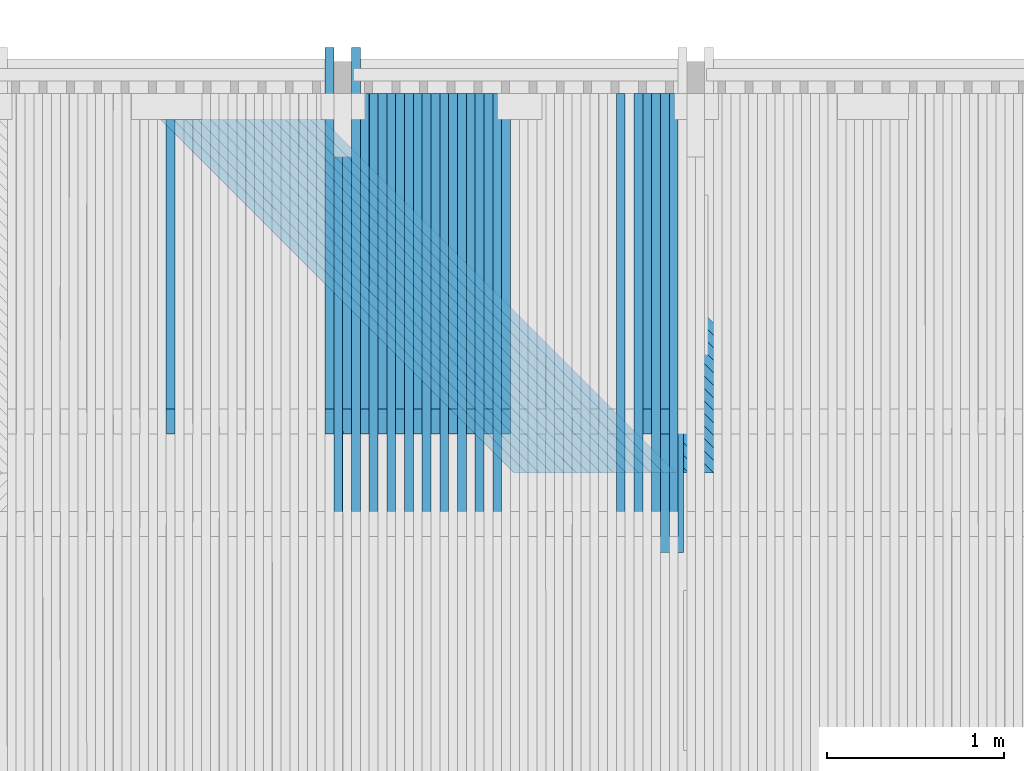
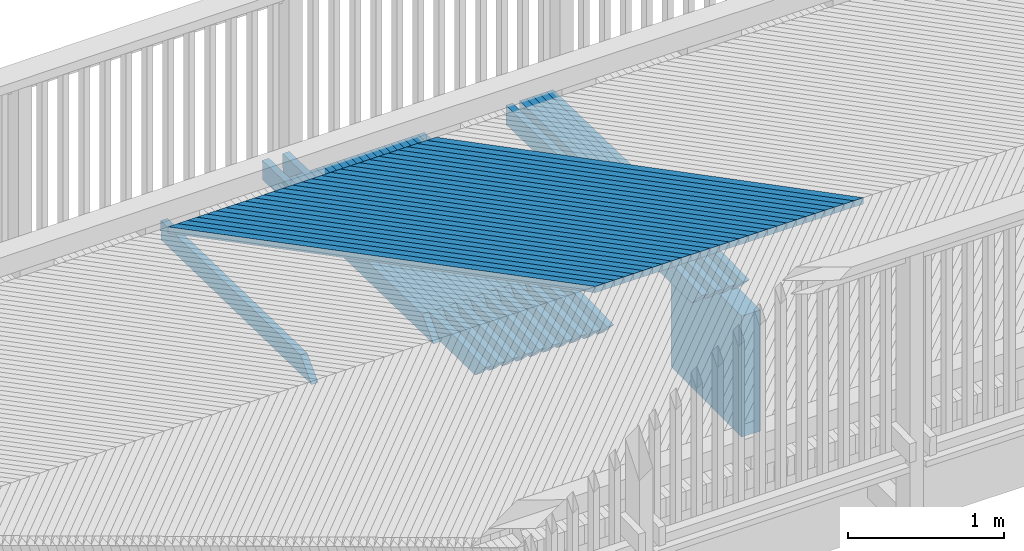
# One storey, part 26 of 52: 57 beams.
"""IFC2X3 building model written with IfcOpenShell, lengths in millimetres."""

from ifc_helpers import new_model, si_unit, frame, origin_with_axes, place, context, subcontext, project, spatial, faceted_brep, material, type_object, element, save


model = new_model("IFC2X3")

# Units and contexts
model_context = context("Model", 3, precision=1e-05, world=origin_with_axes())
body_context = subcontext(model_context, "Body", "Model", "MODEL_VIEW")
ifc_project = project(units=[si_unit("LENGTHUNIT", "METRE", prefix="MILLI"), si_unit("AREAUNIT", "SQUARE_METRE"), si_unit("VOLUMEUNIT", "CUBIC_METRE"), si_unit("MASSUNIT", "GRAM", prefix="KILO"), si_unit("TIMEUNIT", "SECOND"), si_unit("PLANEANGLEUNIT", "RADIAN"), si_unit("SOLIDANGLEUNIT", "STERADIAN"), si_unit("THERMODYNAMICTEMPERATUREUNIT", "DEGREE_CELSIUS"), si_unit("LUMINOUSINTENSITYUNIT", "LUMEN")], contexts=[model_context])

# Site, building, storey
site_placement = place(None, origin_with_axes())
site = spatial("IfcSite", under=ifc_project, at=site_placement, Name="Undefined", CompositionType="ELEMENT")
building_placement = place(site_placement, origin_with_axes())
building = spatial("IfcBuilding", under=site, at=building_placement, Name="Undefined", CompositionType="ELEMENT")
storey_placement = place(building_placement, origin_with_axes())
storey = spatial("IfcBuildingStorey", under=building, at=storey_placement, Name="Undefined", CompositionType="ELEMENT", Elevation=0.0)

# Beams
ifc_material = material(Name="TIMBER/Timber_Undefined")
beam_type_1 = type_object("IfcBeamType", Name="945*140", PredefinedType="NOTDEFINED")
beam_1_placement = place(storey_placement, frame((7860.0, 2817.5, 2542.6479002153), z_axis=(0.0, 0.0, 1.0), x_axis=(0.0, -1.0, 0.0)))
element("IfcBeam", 1, at=beam_1_placement, inside=storey, type_object=beam_type_1, material=ifc_material, Name="PALKKI", ObjectType="945*140", context=body_context, shape_type="Brep", body=[
    faceted_brep([(0.0, 70.0, -472.5), (0.0, 70.0, 472.5), (905.0, 70.0, 472.5), (905.0, 70.0, -472.5), (0.0, -70.0, 472.5), (905.0, -70.0, 472.5), (0.0, -70.0, -472.5), (905.0, -70.0, -472.5)], [[[0, 1, 2, 3]], [[1, 4, 5, 2]], [[4, 6, 7, 5]], [[6, 0, 3, 7]], [[5, 7, 3, 2]], [[6, 4, 1, 0]]]),
])
beam_type_2 = type_object("IfcBeamType", Name="50*50", PredefinedType="NOTDEFINED")
for number, where, z_axis, x_axis, name in (
    (2, (8913.77277485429, 2365.49989967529, 3235.42868074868), (0.707094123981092, 0.706981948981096, -0.0139435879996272), (-0.707119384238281, 0.706948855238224, -0.0143350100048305), "BEAM"),
    (3, (8843.04861667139, 2365.49989967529, 3235.53185944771), (0.707095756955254, 0.70698194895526, -0.013860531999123), (-0.7071176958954, 0.706948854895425, -0.0144180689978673), "BEAM"),
    (4, (8772.32444685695, 2365.49989967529, 3235.62673083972), (0.707097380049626, 0.706981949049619, -0.0137774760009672), (-0.707115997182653, 0.70694885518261, -0.0145011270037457), "BEAM"),
    (5, (8701.60026638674, 2365.49989967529, 3235.71329492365), (0.707098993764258, 0.706981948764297, -0.0136944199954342), (-0.707114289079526, 0.706948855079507, -0.0145841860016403), "BEAM"),
    (6, (8630.87607623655, 2365.49989967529, 3235.79155169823), (0.707100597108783, 0.706981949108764, -0.013611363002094), (-0.707112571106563, 0.706948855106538, -0.0146672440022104), "BEAM"),
    (7, (8560.15187738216, 2365.49989967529, 3235.86150116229), (0.707102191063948, 0.706981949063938, -0.0135283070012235), (-0.707110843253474, 0.706948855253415, -0.0147503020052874), "BEAM"),
    (8, (8489.42767079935, 2365.49989967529, 3235.9231433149), (0.707103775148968, 0.706981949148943, -0.0134452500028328), (-0.707109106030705, 0.706948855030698, -0.0148333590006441), "BEAM"),
    (9, (8418.7034574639, 2365.49989967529, 3235.97647815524), (0.707105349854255, 0.70698194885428, -0.0133621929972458), (-0.70710735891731, 0.706948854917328, -0.0149164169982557), "BEAM"),
    (10, (8347.9792383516, 2365.49989967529, 3236.02150568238), (0.707106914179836, 0.706981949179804, -0.0132791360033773), (-0.707105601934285, 0.7069488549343, -0.014999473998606), "BEAM"),
    (11, (8277.25501443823, 2365.49989967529, 3236.05822589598), (0.707108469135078, 0.706981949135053, -0.0131960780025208), (-0.707103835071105, 0.706948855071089, -0.0150825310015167), "BEAM"),
    (12, (8206.53078669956, 2365.49989967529, 3236.08663879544), (0.707110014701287, 0.706981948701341, -0.0131130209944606), (-0.707102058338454, 0.706948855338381, -0.015165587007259), "BEAM"),
    (13, (8135.80655611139, 2365.49989967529, 3236.10674438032), (0.707111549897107, 0.706981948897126, -0.0130299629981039), (-0.707100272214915, 0.706948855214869, -0.0152486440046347), "BEAM"),
    (14, (8065.0823236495, 2365.49989967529, 3236.11854265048), (0.70711307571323, 0.706981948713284, -0.0129469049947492), (-0.70709847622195, 0.706948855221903, -0.0153317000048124), "BEAM"),
    (15, (7994.35809028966, 2365.49989967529, 3236.12203360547), (0.707114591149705, 0.706981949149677, -0.0128638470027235), (-0.707096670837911, 0.706948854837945, -0.0154147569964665), "BEAM"),
    (16, (7923.63385700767, 2365.49989967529, 3236.11721724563), (0.707116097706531, 0.706981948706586, -0.0127807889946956), (-0.707094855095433, 0.706948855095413, -0.0154978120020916), "BEAM"),
    (17, (7852.9096247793, 2365.49989967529, 3236.10409357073), (0.707117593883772, 0.706981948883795, -0.0126977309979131), (-0.707093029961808, 0.706948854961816, -0.0155808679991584), "BEAM"),
    (18, (7782.18539458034, 2365.49989967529, 3236.082662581), (0.707119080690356, 0.706981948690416, -0.0126146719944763), (-0.707091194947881, 0.706948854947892, -0.0156639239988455), "BEAM"),
    (19, (7711.46116738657, 2365.49989967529, 3236.0529242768), (0.707120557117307, 0.706981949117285, -0.012531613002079), (-0.707089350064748, 0.706948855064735, -0.0157469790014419), "BEAM"),
    (20, (7640.73694417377, 2365.49989967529, 3236.01487865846), (0.707122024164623, 0.706981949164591, -0.0124485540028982), (-0.707087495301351, 0.706948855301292, -0.0158300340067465), "BEAM"),
    (21, (7570.01272591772, 2365.49989967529, 3235.96852572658), (0.707123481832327, 0.706981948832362, -0.0123654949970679), (-0.70708563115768, 0.706948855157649, -0.0159130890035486), "BEAM"),
    (22, (7499.28851359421, 2365.49989967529, 3235.91386548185), (0.707124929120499, 0.706981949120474, -0.012282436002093), (-0.707083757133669, 0.706948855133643, -0.015996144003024), "BEAM"),
    (23, (7428.56430817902, 2365.49989967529, 3235.85089792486), (0.707126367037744, 0.706981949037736, -0.0121993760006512), (-0.707081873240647, 0.706948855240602, -0.0160791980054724), "BEAM"),
    (24, (7357.84011064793, 2365.49989967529, 3235.77962305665), (0.707127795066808, 0.706981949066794, -0.0121163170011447), (-0.70707997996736, 0.706948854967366, -0.0161622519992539), "BEAM"),
    (25, (7287.11592197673, 2365.49989967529, 3235.70004087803), (0.707129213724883, 0.70698194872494, -0.0120332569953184), (-0.707078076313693, 0.706948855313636, -0.0162453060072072), "BEAM"),
    (26, (7216.39174314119, 2365.49989967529, 3235.61215139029), (0.707130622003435, 0.706981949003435, -0.0119501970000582), (-0.707076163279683, 0.706948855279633, -0.0163283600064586), "BEAM"),
    (27, (7145.6675751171, 2365.49989967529, 3235.51595459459), (0.70713202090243, 0.70698194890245, -0.0118671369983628), (-0.707074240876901, 0.706948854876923, -0.0164114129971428), "BEAM"),
    (28, (7074.94341888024, 2365.49989967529, 3235.4114504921), (0.70713340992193, 0.706981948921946, -0.0117840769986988), (-0.707072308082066, 0.706948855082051, -0.0164944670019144), "BEAM"),
    (29, (7004.2192754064, 2365.49989967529, 3235.29863908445), (0.707134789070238, 0.706981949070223, -0.0117010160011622), (-0.707070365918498, 0.706948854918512, -0.0165775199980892), "BEAM"),
):
    element("IfcBeam", number, at=place(storey_placement, frame(where, z_axis=z_axis, x_axis=x_axis)), inside=storey, type_object=beam_type_2, material=ifc_material, Name=name, ObjectType="50*50", context=body_context, shape_type="Brep", body=[
        faceted_brep([(23.5869248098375, 25.0, -25.0000000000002), (-26.4154158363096, 25.0000000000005, 24.9999999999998), (2802.92643296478, 25.0, 24.9999999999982), (2852.92877373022, 25.0000000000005, -25.0), (-25.0011704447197, -25.0, 24.9999999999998), (2804.3406783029, -25.0000000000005, 24.9999999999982), (25.0011701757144, -25.0, -25.0), (2854.34301907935, -24.9999999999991, -25.0)], [[[0, 1, 2, 3]], [[1, 4, 5, 2]], [[4, 6, 7, 5]], [[6, 0, 3, 7]], [[5, 7, 3, 2]], [[6, 4, 1, 0]]]),
    ])
beam_type_3 = type_object("IfcBeamType", Name="150*50", PredefinedType="NOTDEFINED")
for number, where, z_axis, x_axis, name in (
    (30, (7875.75102646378, 4513.4953923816, 3093.13715307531), (-0.000287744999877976, 0.0199960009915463, 0.999800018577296), (-5.75600000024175e-06, -0.999800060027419, 0.0199959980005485), "BEAM"),
    (31, (7775.73099692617, 4513.4953923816, 3093.10819901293), (-0.000453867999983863, 0.019996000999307, 0.999799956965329), (-9.07800000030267e-06, -0.999800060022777, 0.0199959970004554), "BEAM"),
):
    element("IfcBeam", number, at=place(storey_placement, frame(where, z_axis=z_axis, x_axis=x_axis)), inside=storey, type_object=beam_type_3, material=ifc_material, Name=name, ObjectType="150*50", context=body_context, shape_type="Brep", body=[
        faceted_brep([(-1.67788130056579e-07, -24.9999999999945, -74.9999999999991), (-1.67787220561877e-07, 25.0000000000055, -75.0), (2375.00494422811, 25.0000000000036, -74.9999999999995), (2375.0049444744, -24.9999999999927, -74.9999999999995), (1.67786311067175e-07, -24.9999999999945, 75.0000000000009), (1.67786311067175e-07, 25.0000000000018, 75.0), (2150.42515052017, 25.0000000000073, 75.0), (2510.59248715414, 25.0000000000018, 60.5875433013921), (2510.5924871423, -24.9999999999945, 60.5875430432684), (2150.42514405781, -24.9999999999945, 75.0000000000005)], [[[0, 1, 2, 3]], [[0, 4, 5, 1]], [[2, 1, 5, 6, 7]], [[3, 2, 7, 8]], [[4, 0, 3, 8, 9]], [[5, 4, 9, 6]], [[8, 7, 6, 9]]]),
    ])
beam_2_placement = place(storey_placement, frame((7825.75102780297, 4513.49539238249, 3093.12259668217), z_axis=(-0.000287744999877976, 0.0199960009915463, 0.999800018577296), x_axis=(-5.75600000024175e-06, -0.999800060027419, 0.0199959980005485)))
element("IfcBeam", 32, at=beam_2_placement, inside=storey, type_object=beam_type_3, material=ifc_material, Name="BEAM", ObjectType="150*50", context=body_context, shape_type="Brep", body=[
    faceted_brep([(-1.67788130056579e-07, -24.9999999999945, -74.9999999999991), (1.67786311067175e-07, -24.9999999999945, 75.0000000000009), (1.67786311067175e-07, 25.0000000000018, 75.0), (-1.67787220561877e-07, 25.0000000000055, -75.0), (1789.96936408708, 24.9999999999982, 75.0000000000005), (1928.42646328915, 24.9999999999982, -74.9999999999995), (1928.42646353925, -25.0, -75.0), (1789.96936433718, -25.0000000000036, 74.9999999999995)], [[[0, 1, 2, 3]], [[3, 2, 4, 5]], [[0, 3, 5, 6]], [[1, 0, 6, 7]], [[2, 1, 7, 4]], [[5, 4, 7, 6]]]),
])
beam_3_placement = place(storey_placement, frame((7675.71097358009, 4513.4953923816, 3093.06262608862), z_axis=(-0.000619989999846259, 0.0199960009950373, 0.999799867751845), x_axis=(-1.24010000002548e-05, -0.99980006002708, 0.0199959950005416)))
element("IfcBeam", 33, at=beam_3_placement, inside=storey, type_object=beam_type_3, material=ifc_material, Name="BEAM", ObjectType="150*50", context=body_context, shape_type="Brep", body=[
    faceted_brep([(-1.67788130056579e-07, -24.9999999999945, -74.9999999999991), (-1.67787220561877e-07, 25.0000000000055, -75.0), (2375.00494422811, 25.0000000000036, -74.9999999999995), (2375.0049444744, -24.9999999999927, -74.9999999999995), (1.67786311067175e-07, -24.9999999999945, 75.0000000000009), (1.67786311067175e-07, 25.0000000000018, 75.0), (2150.42515052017, 25.0000000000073, 75.0), (2510.59248715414, 25.0000000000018, 60.5875433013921), (2510.5924871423, -24.9999999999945, 60.5875430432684), (2150.42514405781, -24.9999999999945, 75.0000000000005)], [[[0, 1, 2, 3]], [[0, 4, 5, 1]], [[2, 1, 5, 6, 7]], [[3, 2, 7, 8]], [[4, 0, 3, 8, 9]], [[5, 4, 9, 6]], [[8, 7, 6, 9]]]),
])
beam_4_placement = place(storey_placement, frame((7725.73100137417, 4513.49539238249, 3093.08533485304), z_axis=(-0.000453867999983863, 0.019996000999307, 0.999799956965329), x_axis=(-9.07800000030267e-06, -0.999800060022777, 0.0199959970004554)))
element("IfcBeam", 34, at=beam_4_placement, inside=storey, type_object=beam_type_3, material=ifc_material, Name="BEAM", ObjectType="150*50", context=body_context, shape_type="Brep", body=[
    faceted_brep([(-1.67788130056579e-07, -24.9999999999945, -74.9999999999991), (1.67786311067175e-07, -24.9999999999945, 75.0000000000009), (1.67786311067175e-07, 25.0000000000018, 75.0), (-1.67787220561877e-07, 25.0000000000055, -75.0), (1789.96936408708, 24.9999999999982, 75.0000000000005), (1928.42646328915, 24.9999999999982, -74.9999999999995), (1928.42646353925, -25.0, -75.0), (1789.96936433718, -25.0000000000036, 74.9999999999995)], [[[0, 1, 2, 3]], [[3, 2, 4, 5]], [[0, 3, 5, 6]], [[1, 0, 6, 7]], [[2, 1, 7, 4]], [[5, 4, 7, 6]]]),
])
for number, where, z_axis, x_axis, name in (
    (35, (7575.69095918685, 4513.4953923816, 3093.00043430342), (-0.00078611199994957, 0.0199960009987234, 0.999799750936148), (-1.57230000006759e-05, -0.999800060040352, 0.019995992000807), "BEAM"),
    (36, (6875.55134106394, 4513.4953923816, 3092.09976390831), (-0.00194896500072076, 0.0199960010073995, 0.999798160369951), (-3.89800000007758e-05, -0.999800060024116, 0.0199959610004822), "BEAM"),
):
    element("IfcBeam", number, at=place(storey_placement, frame(where, z_axis=z_axis, x_axis=x_axis)), inside=storey, type_object=beam_type_3, material=ifc_material, Name=name, ObjectType="150*50", context=body_context, shape_type="Brep", body=[
        faceted_brep([(-1.67788130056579e-07, -24.9999999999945, -74.9999999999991), (-1.67787220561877e-07, 25.0000000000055, -75.0), (2375.00494422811, 25.0000000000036, -74.9999999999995), (2375.0049444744, -24.9999999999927, -74.9999999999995), (1.67786311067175e-07, -24.9999999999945, 75.0000000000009), (1.67786311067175e-07, 25.0000000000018, 75.0), (2150.42515052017, 25.0000000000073, 75.0), (2510.59248715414, 25.0000000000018, 60.5875433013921), (2510.5924871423, -24.9999999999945, 60.5875430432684), (2150.42514405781, -24.9999999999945, 75.0000000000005)], [[[0, 1, 2, 3]], [[0, 4, 5, 1]], [[2, 1, 5, 6, 7]], [[3, 2, 7, 8]], [[4, 0, 3, 8, 9]], [[5, 4, 9, 6]], [[8, 7, 6, 9]]]),
    ])
beam_5_placement = place(storey_placement, frame((6925.57129448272, 4513.49539238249, 3092.18896139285), z_axis=(-0.0017828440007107, 0.0199960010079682, 0.999798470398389), x_axis=(-3.56580000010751e-05, -0.999800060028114, 0.0199959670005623)))
element("IfcBeam", 37, at=beam_5_placement, inside=storey, type_object=beam_type_3, material=ifc_material, Name="BEAM", ObjectType="150*50", context=body_context, shape_type="Brep", body=[
    faceted_brep([(-1.67788130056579e-07, -24.9999999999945, -74.9999999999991), (1.67786311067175e-07, -24.9999999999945, 75.0000000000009), (1.67786311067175e-07, 25.0000000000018, 75.0), (-1.67787220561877e-07, 25.0000000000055, -75.0), (1928.42646328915, 24.9999999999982, -74.9999999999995), (1928.42646353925, -25.0, -75.0), (1789.96936433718, -25.0000000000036, 74.9999999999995), (1789.96936408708, 24.9999999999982, 75.0000000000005)], [[[0, 1, 2, 3]], [[0, 3, 4, 5]], [[1, 0, 5, 6]], [[2, 1, 6, 7]], [[3, 2, 7, 4]], [[4, 7, 6, 5]]]),
])
beam_6_placement = place(storey_placement, frame((6775.53149770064, 4513.4953923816, 3091.90462133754), z_axis=(-0.0021150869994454, 0.019996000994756, 0.999797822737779), x_axis=(-4.23030000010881e-05, -0.999800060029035, 0.0199959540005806)))
element("IfcBeam", 38, at=beam_6_placement, inside=storey, type_object=beam_type_3, material=ifc_material, Name="BEAM", ObjectType="150*50", context=body_context, shape_type="Brep", body=[
    faceted_brep([(-1.67788130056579e-07, -24.9999999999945, -74.9999999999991), (-1.67787220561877e-07, 25.0000000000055, -75.0), (2375.00494422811, 25.0000000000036, -74.9999999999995), (2375.0049444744, -24.9999999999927, -74.9999999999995), (1.67786311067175e-07, -24.9999999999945, 75.0000000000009), (1.67786311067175e-07, 25.0000000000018, 75.0), (2150.42515052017, 25.0000000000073, 75.0), (2510.59248715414, 25.0000000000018, 60.5875433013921), (2510.5924871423, -24.9999999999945, 60.5875430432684), (2150.42514405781, -24.9999999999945, 75.0000000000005)], [[[0, 1, 2, 3]], [[0, 4, 5, 1]], [[2, 1, 5, 6, 7]], [[3, 2, 7, 8]], [[4, 0, 3, 8, 9]], [[5, 4, 9, 6]], [[8, 7, 6, 9]]]),
])
beam_7_placement = place(storey_placement, frame((6825.55143560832, 4513.49539238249, 3092.0021299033), z_axis=(-0.00194896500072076, 0.0199960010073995, 0.999798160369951), x_axis=(-3.89800000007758e-05, -0.999800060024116, 0.0199959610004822)))
element("IfcBeam", 39, at=beam_7_placement, inside=storey, type_object=beam_type_3, material=ifc_material, Name="BEAM", ObjectType="150*50", context=body_context, shape_type="Brep", body=[
    faceted_brep([(-1.67788130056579e-07, -24.9999999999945, -74.9999999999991), (1.67786311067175e-07, -24.9999999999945, 75.0000000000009), (1.67786311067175e-07, 25.0000000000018, 75.0), (-1.67787220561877e-07, 25.0000000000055, -75.0), (1928.42646328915, 24.9999999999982, -74.9999999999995), (1928.42646353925, -25.0, -75.0), (1789.96936433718, -25.0000000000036, 74.9999999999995), (1789.96936408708, 24.9999999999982, 75.0000000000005)], [[[0, 1, 2, 3]], [[0, 3, 4, 5]], [[1, 0, 5, 6]], [[2, 1, 6, 7]], [[3, 2, 7, 4]], [[4, 7, 6, 5]]]),
])
beam_8_placement = place(storey_placement, frame((6675.51168814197, 4513.4953923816, 3091.6928599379), z_axis=(-0.00228120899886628, 0.0199960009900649, 0.999797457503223), x_axis=(-4.5625000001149e-05, -0.99980006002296, 0.0199959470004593)))
element("IfcBeam", 40, at=beam_8_placement, inside=storey, type_object=beam_type_3, material=ifc_material, Name="BEAM", ObjectType="150*50", context=body_context, shape_type="Brep", body=[
    faceted_brep([(-1.67788130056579e-07, -24.9999999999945, -74.9999999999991), (-1.67787220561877e-07, 25.0000000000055, -75.0), (2375.00494422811, 25.0000000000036, -74.9999999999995), (2375.0049444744, -24.9999999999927, -74.9999999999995), (1.67786311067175e-07, -24.9999999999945, 75.0000000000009), (1.67786311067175e-07, 25.0000000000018, 75.0), (2150.42515052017, 25.0000000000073, 75.0), (2510.59248715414, 25.0000000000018, 60.5875433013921), (2510.5924871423, -24.9999999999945, 60.5875430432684), (2150.42514405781, -24.9999999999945, 75.0000000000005)], [[[0, 1, 2, 3]], [[0, 4, 5, 1]], [[2, 1, 5, 6, 7]], [[3, 2, 7, 8]], [[4, 0, 3, 8, 9]], [[5, 4, 9, 6]], [[8, 7, 6, 9]]]),
])
beam_9_placement = place(storey_placement, frame((6725.53160915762, 4513.49539238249, 3091.79867958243), z_axis=(-0.0021150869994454, 0.019996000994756, 0.999797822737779), x_axis=(-4.23030000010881e-05, -0.999800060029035, 0.0199959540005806)))
element("IfcBeam", 41, at=beam_9_placement, inside=storey, type_object=beam_type_3, material=ifc_material, Name="BEAM", ObjectType="150*50", context=body_context, shape_type="Brep", body=[
    faceted_brep([(-1.67788130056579e-07, -24.9999999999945, -74.9999999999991), (1.67786311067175e-07, -24.9999999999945, 75.0000000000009), (1.67786311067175e-07, 25.0000000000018, 75.0), (-1.67787220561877e-07, 25.0000000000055, -75.0), (1928.42646328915, 24.9999999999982, -74.9999999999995), (1928.42646353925, -25.0, -75.0), (1789.96936433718, -25.0000000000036, 74.9999999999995), (1789.96936408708, 24.9999999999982, 75.0000000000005)], [[[0, 1, 2, 3]], [[0, 3, 4, 5]], [[1, 0, 5, 6]], [[2, 1, 6, 7]], [[3, 2, 7, 4]], [[4, 7, 6, 5]]]),
])
beam_10_placement = place(storey_placement, frame((6575.49191514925, 4513.4953923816, 3091.46447971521), z_axis=(-0.00244733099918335, 0.0199960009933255, 0.999797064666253), x_axis=(-4.894700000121e-05, -0.999800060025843, 0.0199959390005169)))
element("IfcBeam", 42, at=beam_10_placement, inside=storey, type_object=beam_type_3, material=ifc_material, Name="BEAM", ObjectType="150*50", context=body_context, shape_type="Brep", body=[
    faceted_brep([(-1.67788130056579e-07, -24.9999999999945, -74.9999999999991), (-1.67787220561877e-07, 25.0000000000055, -75.0), (2375.00494422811, 25.0000000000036, -74.9999999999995), (2375.0049444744, -24.9999999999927, -74.9999999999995), (1.67786311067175e-07, -24.9999999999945, 75.0000000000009), (1.67786311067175e-07, 25.0000000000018, 75.0), (2150.42515052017, 25.0000000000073, 75.0), (2510.59248715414, 25.0000000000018, 60.5875433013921), (2510.5924871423, -24.9999999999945, 60.5875430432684), (2150.42514405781, -24.9999999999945, 75.0000000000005)], [[[0, 1, 2, 3]], [[0, 4, 5, 1]], [[2, 1, 5, 6, 7]], [[3, 2, 7, 8]], [[4, 0, 3, 8, 9]], [[5, 4, 9, 6]], [[8, 7, 6, 9]]]),
])
beam_11_placement = place(storey_placement, frame((6625.51181789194, 4513.49539238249, 3091.57861043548), z_axis=(-0.00228120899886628, 0.0199960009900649, 0.999797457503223), x_axis=(-4.5625000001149e-05, -0.99980006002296, 0.0199959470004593)))
element("IfcBeam", 43, at=beam_11_placement, inside=storey, type_object=beam_type_3, material=ifc_material, Name="BEAM", ObjectType="150*50", context=body_context, shape_type="Brep", body=[
    faceted_brep([(-1.67788130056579e-07, -24.9999999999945, -74.9999999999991), (1.67786311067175e-07, -24.9999999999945, 75.0000000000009), (1.67786311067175e-07, 25.0000000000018, 75.0), (-1.67787220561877e-07, 25.0000000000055, -75.0), (1928.42646328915, 24.9999999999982, -74.9999999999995), (1928.42646353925, -25.0, -75.0), (1789.96936433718, -25.0000000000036, 74.9999999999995), (1789.96936408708, 24.9999999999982, 75.0000000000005)], [[[0, 1, 2, 3]], [[0, 3, 4, 5]], [[1, 0, 5, 6]], [[2, 1, 6, 7]], [[3, 2, 7, 4]], [[4, 7, 6, 5]]]),
])
beam_12_placement = place(storey_placement, frame((6475.47218148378, 4513.4953923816, 3091.21948067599), z_axis=(-0.00261345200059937, 0.0199960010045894, 0.999796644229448), x_axis=(-5.22700000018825e-05, -0.999800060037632, 0.0199959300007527)))
element("IfcBeam", 44, at=beam_12_placement, inside=storey, type_object=beam_type_3, material=ifc_material, Name="BEAM", ObjectType="150*50", context=body_context, shape_type="Brep", body=[
    faceted_brep([(-1.67788130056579e-07, -24.9999999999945, -74.9999999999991), (-1.67787220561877e-07, 25.0000000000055, -75.0), (2375.00494422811, 25.0000000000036, -74.9999999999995), (2375.0049444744, -24.9999999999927, -74.9999999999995), (1.67786311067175e-07, -24.9999999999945, 75.0000000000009), (1.67786311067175e-07, 25.0000000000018, 75.0), (2150.42515052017, 25.0000000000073, 75.0), (2510.59248715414, 25.0000000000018, 60.5875433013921), (2510.5924871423, -24.9999999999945, 60.5875430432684), (2150.42514405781, -24.9999999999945, 75.0000000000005)], [[[0, 1, 2, 3]], [[0, 4, 5, 1]], [[2, 1, 5, 6, 7]], [[3, 2, 7, 8]], [[4, 0, 3, 8, 9]], [[5, 4, 9, 6]], [[8, 7, 6, 9]]]),
])
beam_13_placement = place(storey_placement, frame((6525.49206457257, 4513.49539238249, 3091.34192246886), z_axis=(-0.00244733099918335, 0.0199960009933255, 0.999797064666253), x_axis=(-4.894700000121e-05, -0.999800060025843, 0.0199959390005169)))
element("IfcBeam", 45, at=beam_13_placement, inside=storey, type_object=beam_type_3, material=ifc_material, Name="BEAM", ObjectType="150*50", context=body_context, shape_type="Brep", body=[
    faceted_brep([(-1.67788130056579e-07, -24.9999999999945, -74.9999999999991), (1.67786311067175e-07, -24.9999999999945, 75.0000000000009), (1.67786311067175e-07, 25.0000000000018, 75.0), (-1.67787220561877e-07, 25.0000000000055, -75.0), (1928.42646328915, 24.9999999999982, -74.9999999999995), (1928.42646353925, -25.0, -75.0), (1789.96936433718, -25.0000000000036, 74.9999999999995), (1789.96936408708, 24.9999999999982, 75.0000000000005)], [[[0, 1, 2, 3]], [[0, 3, 4, 5]], [[1, 0, 5, 6]], [[2, 1, 6, 7]], [[3, 2, 7, 4]], [[4, 7, 6, 5]]]),
])
beam_14_placement = place(storey_placement, frame((6375.45248990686, 4513.4953923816, 3090.957862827), z_axis=(-0.00277957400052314, 0.0199960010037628, 0.99979619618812), x_axis=(-5.55920000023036e-05, -0.999800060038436, 0.0199959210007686)))
element("IfcBeam", 46, at=beam_14_placement, inside=storey, type_object=beam_type_3, material=ifc_material, Name="BEAM", ObjectType="150*50", context=body_context, shape_type="Brep", body=[
    faceted_brep([(-1.67788130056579e-07, -24.9999999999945, -74.9999999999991), (-1.67787220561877e-07, 25.0000000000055, -75.0), (2375.00494422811, 25.0000000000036, -74.9999999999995), (2375.0049444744, -24.9999999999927, -74.9999999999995), (1.67786311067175e-07, -24.9999999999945, 75.0000000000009), (1.67786311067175e-07, 25.0000000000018, 75.0), (2150.42515052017, 25.0000000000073, 75.0), (2510.59248715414, 25.0000000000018, 60.5875433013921), (2510.5924871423, -24.9999999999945, 60.5875430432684), (2150.42514405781, -24.9999999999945, 75.0000000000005)], [[[0, 1, 2, 3]], [[0, 4, 5, 1]], [[2, 1, 5, 6, 7]], [[3, 2, 7, 8]], [[4, 0, 3, 8, 9]], [[5, 4, 9, 6]], [[8, 7, 6, 9]]]),
])
beam_15_placement = place(storey_placement, frame((6425.47235196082, 4513.49539238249, 3091.08861568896), z_axis=(-0.00261345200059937, 0.0199960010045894, 0.999796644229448), x_axis=(-5.22700000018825e-05, -0.999800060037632, 0.0199959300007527)))
element("IfcBeam", 47, at=beam_15_placement, inside=storey, type_object=beam_type_3, material=ifc_material, Name="BEAM", ObjectType="150*50", context=body_context, shape_type="Brep", body=[
    faceted_brep([(-1.67788130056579e-07, -24.9999999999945, -74.9999999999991), (1.67786311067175e-07, -24.9999999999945, 75.0000000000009), (1.67786311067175e-07, 25.0000000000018, 75.0), (-1.67787220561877e-07, 25.0000000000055, -75.0), (1928.42646328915, 24.9999999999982, -74.9999999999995), (1928.42646353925, -25.0, -75.0), (1789.96936433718, -25.0000000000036, 74.9999999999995), (1789.96936408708, 24.9999999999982, 75.0000000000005)], [[[0, 1, 2, 3]], [[0, 3, 4, 5]], [[1, 0, 5, 6]], [[2, 1, 6, 7]], [[3, 2, 7, 4]], [[4, 7, 6, 5]]]),
])
beam_16_placement = place(storey_placement, frame((6275.43284317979, 4513.4953923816, 3090.6796261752), z_axis=(-0.00294569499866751, 0.0199960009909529, 0.999795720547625), x_axis=(-5.89150000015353e-05, -0.999800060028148, 0.0199959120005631)))
element("IfcBeam", 48, at=beam_16_placement, inside=storey, type_object=beam_type_3, material=ifc_material, Name="BEAM", ObjectType="150*50", context=body_context, shape_type="Brep", body=[
    faceted_brep([(-1.67788130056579e-07, -24.9999999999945, -74.9999999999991), (-1.67787220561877e-07, 25.0000000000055, -75.0), (2375.00494422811, 25.0000000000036, -74.9999999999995), (2375.0049444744, -24.9999999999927, -74.9999999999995), (1.67786311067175e-07, -24.9999999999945, 75.0000000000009), (1.67786311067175e-07, 25.0000000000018, 75.0), (2150.42515052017, 25.0000000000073, 75.0), (2510.59248715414, 25.0000000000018, 60.5875433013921), (2510.5924871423, -24.9999999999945, 60.5875430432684), (2150.42514405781, -24.9999999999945, 75.0000000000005)], [[[0, 1, 2, 3]], [[0, 4, 5, 1]], [[2, 1, 5, 6, 7]], [[3, 2, 7, 8]], [[4, 0, 3, 8, 9]], [[5, 4, 9, 6]], [[8, 7, 6, 9]]]),
])
beam_17_placement = place(storey_placement, frame((6325.45268281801, 4513.49539238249, 3090.81869010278), z_axis=(-0.00277957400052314, 0.0199960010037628, 0.99979619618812), x_axis=(-5.55920000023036e-05, -0.999800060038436, 0.0199959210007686)))
element("IfcBeam", 49, at=beam_17_placement, inside=storey, type_object=beam_type_3, material=ifc_material, Name="BEAM", ObjectType="150*50", context=body_context, shape_type="Brep", body=[
    faceted_brep([(-1.67788130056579e-07, -24.9999999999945, -74.9999999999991), (1.67786311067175e-07, -24.9999999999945, 75.0000000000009), (1.67786311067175e-07, 25.0000000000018, 75.0), (-1.67787220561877e-07, 25.0000000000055, -75.0), (1928.42646328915, 24.9999999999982, -74.9999999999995), (1928.42646353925, -25.0, -75.0), (1789.96936433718, -25.0000000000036, 74.9999999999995), (1789.96936408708, 24.9999999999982, 75.0000000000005)], [[[0, 1, 2, 3]], [[0, 3, 4, 5]], [[1, 0, 5, 6]], [[2, 1, 6, 7]], [[3, 2, 7, 4]], [[4, 7, 6, 5]]]),
])
beam_18_placement = place(storey_placement, frame((6175.41324406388, 4513.4953923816, 3090.38477072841), z_axis=(-0.00311181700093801, 0.0199960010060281, 0.999795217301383), x_axis=(-6.22370000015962e-05, -0.999800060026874, 0.0199959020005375)))
element("IfcBeam", 50, at=beam_18_placement, inside=storey, type_object=beam_type_3, material=ifc_material, Name="BEAM", ObjectType="150*50", context=body_context, shape_type="Brep", body=[
    faceted_brep([(-1.67788130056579e-07, -24.9999999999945, -74.9999999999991), (-1.67787220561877e-07, 25.0000000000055, -75.0), (2375.00494422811, 25.0000000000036, -74.9999999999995), (2375.0049444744, -24.9999999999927, -74.9999999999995), (1.67786311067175e-07, -24.9999999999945, 75.0000000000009), (1.67786311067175e-07, 25.0000000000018, 75.0), (2150.42515052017, 25.0000000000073, 75.0), (2510.59248715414, 25.0000000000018, 60.5875433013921), (2510.5924871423, -24.9999999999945, 60.5875430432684), (2150.42514405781, -24.9999999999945, 75.0000000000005)], [[[0, 1, 2, 3]], [[0, 4, 5, 1]], [[2, 1, 5, 6, 7]], [[3, 2, 7, 8]], [[4, 0, 3, 8, 9]], [[5, 4, 9, 6]], [[8, 7, 6, 9]]]),
])
for number, where, z_axis, x_axis, name in (
    (51, (6225.43305990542, 4513.49539238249, 3090.53214571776), (-0.00294569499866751, 0.0199960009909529, 0.999795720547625), (-5.89150000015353e-05, -0.999800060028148, 0.0199959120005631), "BEAM"),
    (52, (6125.41348598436, 4513.49539238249, 3090.22898254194), (-0.00311181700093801, 0.0199960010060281, 0.999795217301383), (-6.22370000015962e-05, -0.999800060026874, 0.0199959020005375), "BEAM"),
):
    element("IfcBeam", number, at=place(storey_placement, frame(where, z_axis=z_axis, x_axis=x_axis)), inside=storey, type_object=beam_type_3, material=ifc_material, Name=name, ObjectType="150*50", context=body_context, shape_type="Brep", body=[
        faceted_brep([(-1.67788130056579e-07, -24.9999999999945, -74.9999999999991), (1.67786311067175e-07, -24.9999999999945, 75.0000000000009), (1.67786311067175e-07, 25.0000000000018, 75.0), (-1.67787220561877e-07, 25.0000000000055, -75.0), (1928.42646328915, 24.9999999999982, -74.9999999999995), (1928.42646353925, -25.0, -75.0), (1789.96936433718, -25.0000000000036, 74.9999999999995), (1789.96936408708, 24.9999999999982, 75.0000000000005)], [[[0, 1, 2, 3]], [[0, 3, 4, 5]], [[1, 0, 5, 6]], [[2, 1, 6, 7]], [[3, 2, 7, 4]], [[4, 7, 6, 5]]]),
    ])
beam_19_placement = place(storey_placement, frame((5975.37419971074, 4513.4953923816, 3089.74520348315), z_axis=(-0.00344405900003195, 0.0199960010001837, 0.999794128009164), x_axis=(-6.88820000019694e-05, -0.99980006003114, 0.0199958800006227)))
element("IfcBeam", 53, at=beam_19_placement, inside=storey, type_object=beam_type_3, material=ifc_material, Name="BEAM", ObjectType="150*50", context=body_context, shape_type="Brep", body=[
    faceted_brep([(-1.67788130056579e-07, -24.9999999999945, -74.9999999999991), (-1.67787220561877e-07, 25.0000000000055, -75.0), (2375.00494422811, 25.0000000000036, -74.9999999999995), (2375.0049444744, -24.9999999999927, -74.9999999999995), (1.67786311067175e-07, -24.9999999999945, 75.0000000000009), (1.67786311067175e-07, 25.0000000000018, 75.0), (2150.42515052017, 25.0000000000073, 75.0), (2510.59248715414, 25.0000000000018, 60.5875433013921), (2510.5924871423, -24.9999999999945, 60.5875430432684), (2150.42514405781, -24.9999999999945, 75.0000000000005)], [[[0, 1, 2, 3]], [[0, 4, 5, 1]], [[2, 1, 5, 6, 7]], [[3, 2, 7, 8]], [[4, 0, 3, 8, 9]], [[5, 4, 9, 6]], [[8, 7, 6, 9]]]),
])
for number, where, z_axis, x_axis, name in (
    (54, (6025.39396381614, 4513.49539238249, 3089.90920058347), (-0.00327793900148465, 0.0199960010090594, 0.999794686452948), (-6.55590000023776e-05, -0.999800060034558, 0.0199958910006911), "BEAM"),
    (55, (5025.80219519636, 4513.49539238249, 3085.79834706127), (-0.004939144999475, 0.0199960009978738, 0.999787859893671), (-9.87840000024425e-05, -0.999800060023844, 0.0199957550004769), "BEAM"),
):
    element("IfcBeam", number, at=place(storey_placement, frame(where, z_axis=z_axis, x_axis=x_axis)), inside=storey, type_object=beam_type_3, material=ifc_material, Name=name, ObjectType="150*50", context=body_context, shape_type="Brep", body=[
        faceted_brep([(-1.67788130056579e-07, -24.9999999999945, -74.9999999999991), (1.67786311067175e-07, -24.9999999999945, 75.0000000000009), (1.67786311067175e-07, 25.0000000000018, 75.0), (-1.67787220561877e-07, 25.0000000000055, -75.0), (1928.42646328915, 24.9999999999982, -74.9999999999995), (1928.42646353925, -25.0, -75.0), (1789.96936433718, -25.0000000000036, 74.9999999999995), (1789.96936408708, 24.9999999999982, 75.0000000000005)], [[[0, 1, 2, 3]], [[0, 3, 4, 5]], [[1, 0, 5, 6]], [[2, 1, 6, 7]], [[3, 2, 7, 4]], [[4, 7, 6, 5]]]),
    ])
beam_20_placement = place(storey_placement, frame((6075.29542450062, 4771.44380785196, 3084.91318306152), z_axis=(-0.00327793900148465, 0.0199960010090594, 0.999794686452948), x_axis=(-6.55590000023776e-05, -0.999800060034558, 0.0199958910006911)))
element("IfcBeam", 56, at=beam_20_placement, inside=storey, type_object=beam_type_3, material=ifc_material, Name="BEAM", ObjectType="150*50", context=body_context, shape_type="Brep", body=[
    faceted_brep([(-1.67788130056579e-07, -24.9999999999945, -74.9999999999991), (-1.67787220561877e-07, 25.0000000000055, -75.0), (2633.00494750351, 25.0, -74.9999999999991), (2633.00494763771, -25.0, -74.9999999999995), (1.67786311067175e-07, -24.9999999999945, 75.0000000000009), (1.67786311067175e-07, 25.0000000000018, 75.0), (2408.42506824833, 25.0, 75.0000000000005), (2768.59248710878, 24.9999999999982, 60.5875398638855), (2768.59248713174, -25.0, 60.5875397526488), (2408.42506549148, -25.0, 75.0000000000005)], [[[0, 1, 2, 3]], [[0, 4, 5, 1]], [[2, 1, 5, 6, 7]], [[3, 2, 7, 8]], [[4, 0, 3, 8, 9]], [[5, 4, 9, 6]], [[8, 7, 6, 9]]]),
])
beam_21_placement = place(storey_placement, frame((5925.27622607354, 4771.44380785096, 3084.41294017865), z_axis=(-0.00344405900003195, 0.0199960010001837, 0.999794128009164), x_axis=(-6.88820000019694e-05, -0.99980006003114, 0.0199958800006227)))
element("IfcBeam", 57, at=beam_21_placement, inside=storey, type_object=beam_type_3, material=ifc_material, Name="BEAM", ObjectType="150*50", context=body_context, shape_type="Brep", body=[
    faceted_brep([(-1.67788130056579e-07, -24.9999999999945, -74.9999999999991), (1.67786311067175e-07, -24.9999999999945, 75.0000000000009), (1.67786311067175e-07, 25.0000000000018, 75.0), (-1.67787220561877e-07, 25.0000000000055, -75.0), (2186.42646676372, 24.9999999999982, -75.0), (2186.42645144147, -25.0, -75.0), (2047.96935255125, -25.0, 75.0), (2047.9693678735, 25.0, 75.0)], [[[0, 1, 2, 3]], [[0, 3, 4, 5]], [[1, 0, 5, 6]], [[2, 1, 6, 7]], [[3, 2, 7, 4]], [[4, 7, 6, 5]]]),
])

save(model, "model.ifc")
